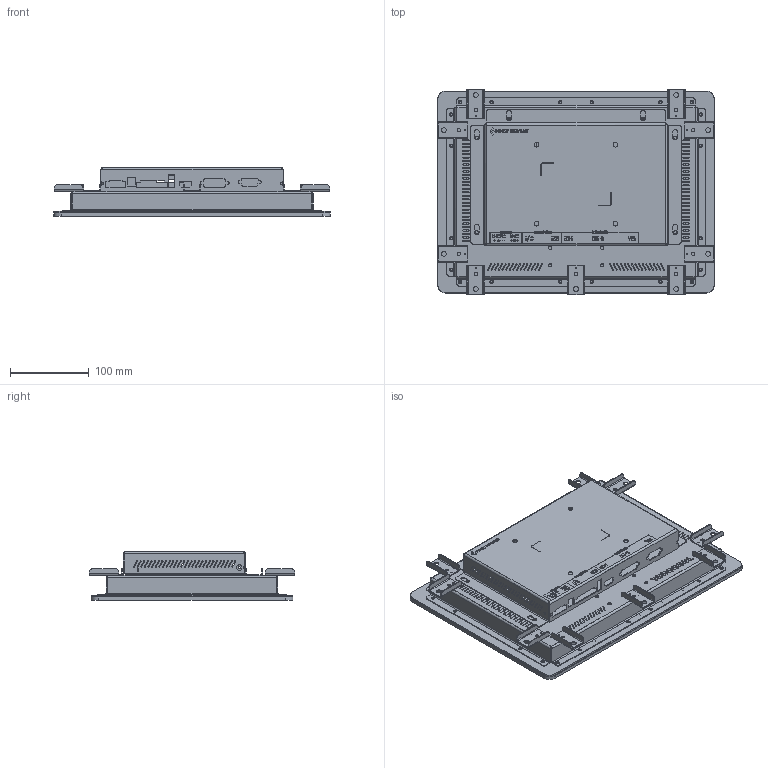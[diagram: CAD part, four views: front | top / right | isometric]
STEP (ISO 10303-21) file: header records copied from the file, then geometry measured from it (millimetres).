
FILE_DESCRIPTION(('STEP AP242'), '1');
FILE_NAME('栖闉罻_GLA12_forSite', '', ('UNSPECIFIED'), ('UNSPECIFIED'), 'C3D Converter', 'C3D Toolkit', '');
FILE_SCHEMA(('AP242_MANAGED_MODEL_BASED_3D_ENGINEERING_MIM_LF { 1 0 10303 442 1 1 4 }'));
Length unit declared in the file: millimetre
Products named in the file (1): -step
Bounding box: 351 x 260 x 61.4 mm (x, y, z)
Volume: 694775.4 mm3; surface area: 558359.5 mm2
Topology: 1 solids, 1 shells, 3204 faces, 8821 edges, 5776 vertices
Faces by surface type: plane 1578, extrusion 894, cylinder 700, bspline 32
Full cylindrical faces by diameter (mm): 1.6 x9, 2 x4, 2.5 x9, 3 x30, 4 x6, 4.2 x9, 4.22 x12, 4.3 x20, 4.35 x9, 4.5 x31, 5 x4, 6 x9, 6.1 x4
Entity records: 130357 total; most frequent: CARTESIAN_POINT 25120, ORIENTED_EDGE 17330, DIRECTION 13655, EDGE_CURVE 8665, VECTOR 6317, VERTEX_POINT 5776, LINE 5423, EDGE_LOOP 4093
